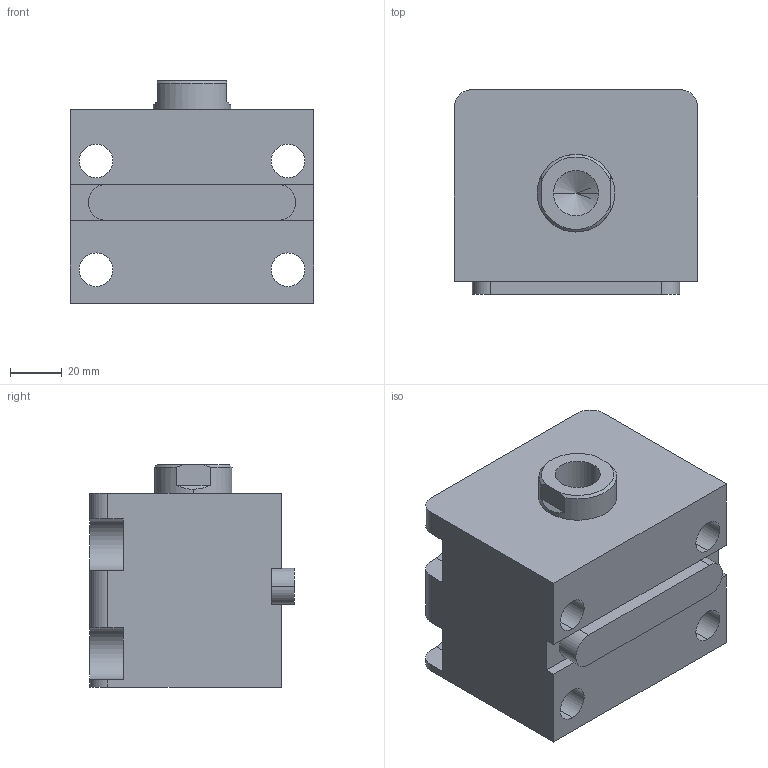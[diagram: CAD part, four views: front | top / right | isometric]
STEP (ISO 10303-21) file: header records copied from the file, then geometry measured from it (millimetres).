
FILE_DESCRIPTION (( 'STEP AP203' ), '1' );
FILE_NAME ('HTB-LA50-15N.STEP', '2019-10-09T07:07:05', ( '微软用户' ), ( '微软中国' ), 'SwSTEP 2.0', 'SolidWorks 2012', '' );
FILE_SCHEMA (( 'CONFIG_CONTROL_DESIGN' ));
Length unit declared in the file: millimetre
Products named in the file (4): HTB-LA50-15N活塞杆; HTB-LA50-瑩; HTB-LA50-15N; HTB-LA50-15掛极
Assembly tree (3 placements, depth 2):
  HTB-LA50-15N
    HTB-LA50-15掛极
    HTB-LA50-15N活塞杆
    HTB-LA50-瑩
Bounding box: 94 x 79 x 86 mm (x, y, z)
Volume: 454064.9 mm3; surface area: 79018.2 mm2
Topology: 3 solids, 3 shells, 86 faces, 213 edges, 139 vertices
Faces by surface type: plane 39, cylinder 35, cone 8, torus 4
Entity records: 3001 total; most frequent: DIRECTION 475, CARTESIAN_POINT 470, ORIENTED_EDGE 422, EDGE_CURVE 211, AXIS2_PLACEMENT_3D 180, VERTEX_POINT 139, LINE 115, VECTOR 115
